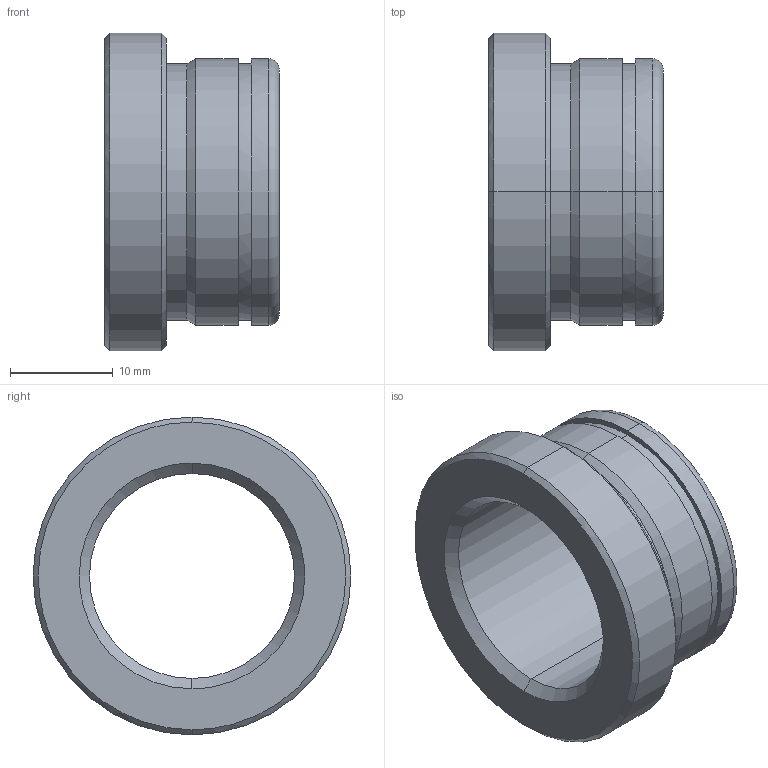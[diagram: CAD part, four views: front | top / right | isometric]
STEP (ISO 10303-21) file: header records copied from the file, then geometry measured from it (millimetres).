
FILE_DESCRIPTION(('CATIA V5 STEP Exchange'),'2;1');
FILE_NAME('C:\Users\Utente\Desktop\IO LAVORO\3D X SITO CF\X SITO\PLASTICA\553\553-20X17.stp','2021-05-23T18:18:18+00:00',('none'),('none'),'CATIA Version 5 Release 20 GA (IN-10)','CATIA V5 STEP AP203','none');
FILE_SCHEMA(('CONFIG_CONTROL_DESIGN'));
Length unit declared in the file: millimetre
Products named in the file (1): 553-20X17
Bounding box: 17 x 31 x 31 mm (x, y, z)
Volume: 4773.3 mm3; surface area: 3383.2 mm2
Topology: 1 solids, 1 shells, 29 faces, 92 edges, 68 vertices
Faces by surface type: cylinder 12, cone 8, plane 5, torus 4
Entity records: 1222 total; most frequent: CARTESIAN_POINT 368, ORIENTED_EDGE 184, DIRECTION 136, EDGE_CURVE 92, AXIS2_PLACEMENT_3D 88, VERTEX_POINT 68, CIRCLE 58, EDGE_LOOP 34
